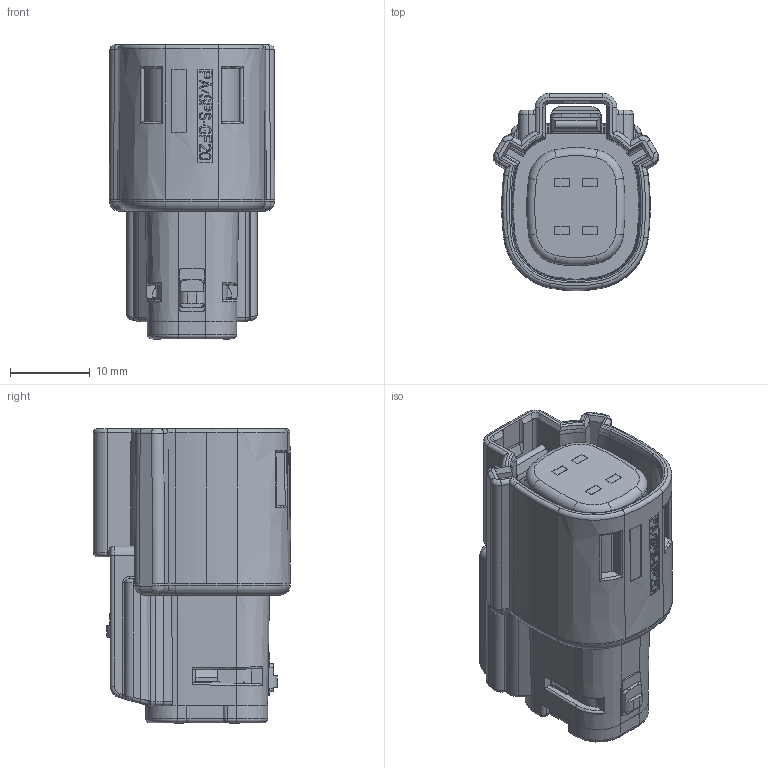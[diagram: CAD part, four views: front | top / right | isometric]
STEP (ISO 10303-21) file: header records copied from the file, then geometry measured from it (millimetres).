
FILE_DESCRIPTION((''),'2;1');
FILE_NAME('334724001','2016-05-12T',('rlalsangi'),(''),'PRO/ENGINEER BY PARAMETRIC TECHNOLOGY CORPORATION, 2012310','PRO/ENGINEER BY PARAMETRIC TECHNOLOGY CORPORATION, 2012310','');
FILE_SCHEMA(('CONFIG_CONTROL_DESIGN'));
Length unit declared in the file: millimetre
Products named in the file (1): 334724001
Bounding box: 20.78 x 24.77 x 37 mm (x, y, z)
Volume: 8347.8 mm3; surface area: 7034.5 mm2
Topology: 1 solids, 1 shells, 1162 faces, 3178 edges, 2025 vertices
Faces by surface type: plane 721, cylinder 232, torus 99, cone 63, bspline 39, sphere 8
Entity records: 39888 total; most frequent: CARTESIAN_POINT 11794, ORIENTED_EDGE 6340, DIRECTION 5176, EDGE_CURVE 3170, VERTEX_POINT 2025, VECTOR 1726, LINE 1726, AXIS2_PLACEMENT_3D 1725
